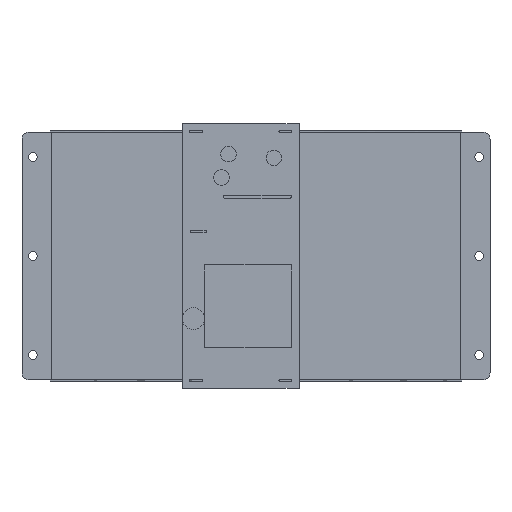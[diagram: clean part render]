
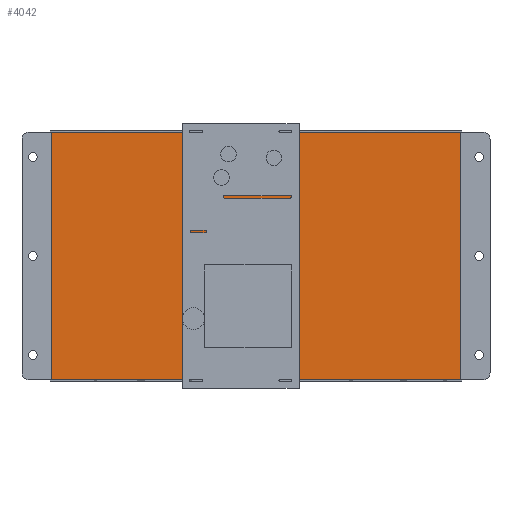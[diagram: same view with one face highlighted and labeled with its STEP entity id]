
A CAD part, front view. The second image highlights one B-rep face of the part: STEP entity #4042.
In plain terms, the highlighted planar face has unit normal (0, -1, 0).
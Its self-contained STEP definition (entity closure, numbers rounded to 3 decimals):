
#321=DIRECTION('',(0.,0.,1.));
#322=VECTOR('',#321,100.);
#323=CARTESIAN_POINT('',(-82.45,-3.5,-50.));
#324=LINE('',#323,#322);
#325=DIRECTION('',(1.,0.,0.));
#326=VECTOR('',#325,164.9);
#327=CARTESIAN_POINT('',(-82.45,-3.5,50.));
#328=LINE('',#327,#326);
#329=DIRECTION('',(0.,0.,-1.));
#330=VECTOR('',#329,100.);
#331=CARTESIAN_POINT('',(82.45,-3.5,50.));
#332=LINE('',#331,#330);
#333=DIRECTION('',(-1.,0.,0.));
#334=VECTOR('',#333,164.9);
#335=CARTESIAN_POINT('',(82.45,-3.5,-50.));
#336=LINE('',#335,#334);
#3467=CARTESIAN_POINT('',(-82.45,-3.5,-50.));
#3468=CARTESIAN_POINT('',(-82.45,-3.5,50.));
#3469=VERTEX_POINT('',#3467);
#3470=VERTEX_POINT('',#3468);
#3471=CARTESIAN_POINT('',(82.45,-3.5,50.));
#3472=VERTEX_POINT('',#3471);
#3473=CARTESIAN_POINT('',(82.45,-3.5,-50.));
#3474=VERTEX_POINT('',#3473);
#4031=CARTESIAN_POINT('',(0.,-3.5,0.));
#4032=DIRECTION('',(0.,1.,0.));
#4033=DIRECTION('',(1.,0.,0.));
#4034=AXIS2_PLACEMENT_3D('',#4031,#4032,#4033);
#4035=PLANE('',#4034);
#4036=ORIENTED_EDGE('',*,*,#3740,.T.);
#4037=ORIENTED_EDGE('',*,*,#3970,.T.);
#4038=ORIENTED_EDGE('',*,*,#4012,.T.);
#4039=ORIENTED_EDGE('',*,*,#4025,.T.);
#4040=EDGE_LOOP('',(#4036,#4037,#4038,#4039));
#4041=FACE_OUTER_BOUND('',#4040,.F.);
#3740=EDGE_CURVE('',#3469,#3470,#324,.T.);
#3970=EDGE_CURVE('',#3470,#3472,#328,.T.);
#4012=EDGE_CURVE('',#3472,#3474,#332,.T.);
#4025=EDGE_CURVE('',#3474,#3469,#336,.T.);
#4042=ADVANCED_FACE('',(#4041),#4035,.F.);
